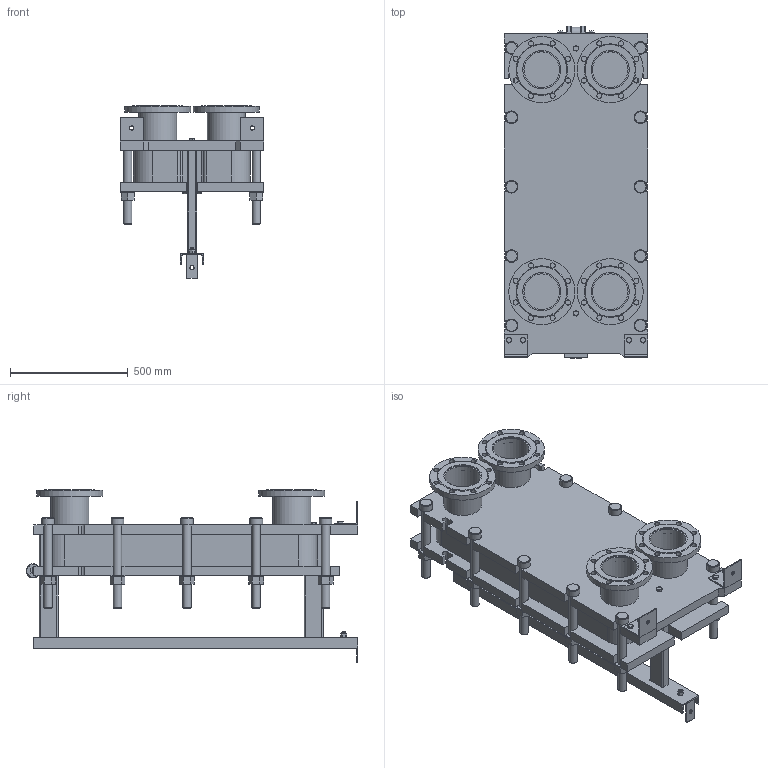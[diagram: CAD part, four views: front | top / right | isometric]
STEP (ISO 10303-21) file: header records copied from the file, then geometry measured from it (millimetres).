
FILE_DESCRIPTION(/* description */ (''),/* implementation_level */ '2;1');
FILE_NAME(/* name */ 'C:\Users\zhuro\Desktop\ENCO\TO\ЭН-041\ЭН-0,5-041-39-1.stp',/* time_stamp */ '2022-06-06T10:51:47+03:00',/* author */ ('zhuro'),/* organization */ (''),/* preprocessor_version */ 'ST-DEVELOPER v18.1',/* originating_system */ 'Autodesk Inventor 2022',/* authorisation */ '');
FILE_SCHEMA (('AUTOMOTIVE_DESIGN { 1 0 10303 214 3 1 1 }'));
Length unit declared in the file: millimetre
Products named in the file (1): ЭН-0,5-041-39-1
Bounding box: 610 x 1406.5 x 732.5 mm (x, y, z)
Volume: 151862461.7 mm3; surface area: 7679511.1 mm2
Topology: 52 solids, 52 shells, 711 faces, 1696 edges, 1094 vertices
Faces by surface type: plane 487, cylinder 177, cone 41, torus 6
Full cylindrical faces by diameter (mm): 8 x4, 10 x2, 16 x8, 18 x3, 22 x32, 36 x24, 50 x1, 54 x10, 60 x12, 151 x4, 161 x8, 280 x4
Entity records: 22667 total; most frequent: CARTESIAN_POINT 5230, DIRECTION 3644, ORIENTED_EDGE 3392, EDGE_CURVE 1696, AXIS2_PLACEMENT_3D 1272, LINE 1100, VECTOR 1100, VERTEX_POINT 1094
